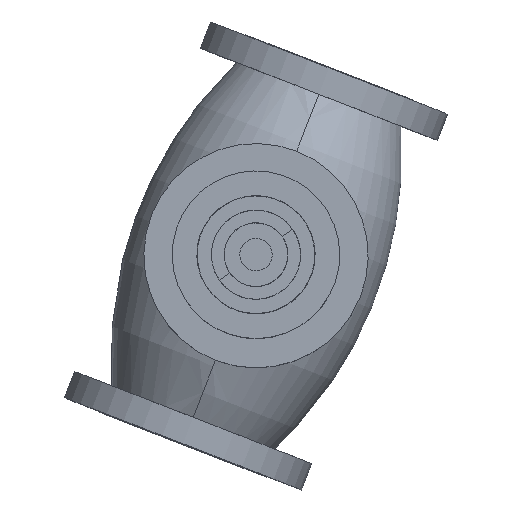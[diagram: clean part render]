
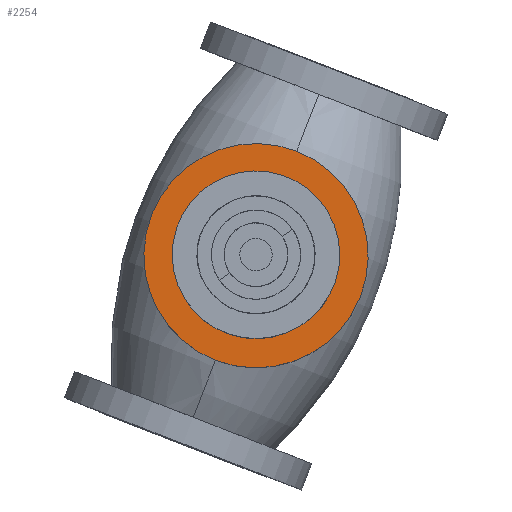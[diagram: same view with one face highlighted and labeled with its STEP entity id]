
A CAD part, top view. The second image highlights one B-rep face of the part: STEP entity #2254.
In plain terms, the highlighted planar face has unit normal (0, 0, 1).
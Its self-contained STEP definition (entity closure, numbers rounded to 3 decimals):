
#117 = EDGE_LOOP ( 'NONE', ( #6191, #2797 ) ) ;
#292 = AXIS2_PLACEMENT_3D ( 'NONE', #2514, #6228, #6932 ) ;
#377 = CARTESIAN_POINT ( 'NONE',  ( -21.119, 64.783, -401.401 ) ) ;
#728 = CARTESIAN_POINT ( 'NONE',  ( 1.502, 4.816, -401.401 ) ) ;
#735 = CARTESIAN_POINT ( 'NONE',  ( 16.715, -56.319, -401.401 ) ) ;
#817 = VERTEX_POINT ( 'NONE', #5376 ) ;
#835 = CARTESIAN_POINT ( 'NONE',  ( 1.502, 4.816, -401.401 ) ) ;
#1004 = EDGE_CURVE ( 'NONE', #8036, #817, #6884, .T. ) ;
#1070 = AXIS2_PLACEMENT_3D ( 'NONE', #6479, #5827, #1247 ) ;
#1093 = VERTEX_POINT ( 'NONE', #377 ) ;
#1116 = CIRCLE ( 'NONE', #4494, 7.5 ) ;
#1247 = DIRECTION ( 'NONE',  ( 0.362, 0.932, 0. ) ) ;
#1401 = DIRECTION ( 'NONE',  ( 0.362, 0.932, 0. ) ) ;
#1477 = VERTEX_POINT ( 'NONE', #7106 ) ;
#1676 = PLANE ( 'NONE',  #4814 ) ;
#1771 = CIRCLE ( 'NONE', #5785, 97. ) ;
#1862 = VERTEX_POINT ( 'NONE', #3874 ) ;
#1970 = EDGE_CURVE ( 'NONE', #1093, #1477, #9484, .T. ) ;
#2213 = CARTESIAN_POINT ( 'NONE',  ( -33.636, -85.595, -401.401 ) ) ;
#2254 = ADVANCED_FACE ( 'NONE', ( #8373, #6199, #9348, #4654 ), #1676, .T. ) ;
#2514 = CARTESIAN_POINT ( 'NONE',  ( -13.71, 65.952, -401.401 ) ) ;
#2521 = EDGE_LOOP ( 'NONE', ( #2976, #7799 ) ) ;
#2530 = DIRECTION ( 'NONE',  ( 0., 0., -1. ) ) ;
#2636 = EDGE_CURVE ( 'NONE', #1477, #1093, #3367, .T. ) ;
#2720 = AXIS2_PLACEMENT_3D ( 'NONE', #4724, #7817, #5524 ) ;
#2797 = ORIENTED_EDGE ( 'NONE', *, *, #1004, .T. ) ;
#2861 = DIRECTION ( 'NONE',  ( 1., 0., 0. ) ) ;
#2976 = ORIENTED_EDGE ( 'NONE', *, *, #6924, .F. ) ;
#3066 = DIRECTION ( 'NONE',  ( 0., 0., -1. ) ) ;
#3367 = CIRCLE ( 'NONE', #292, 7.5 ) ;
#3446 = VERTEX_POINT ( 'NONE', #2213 ) ;
#3572 = DIRECTION ( 'NONE',  ( 0., 0., -1. ) ) ;
#3794 = EDGE_CURVE ( 'NONE', #8671, #3446, #1771, .T. ) ;
#3851 = DIRECTION ( 'NONE',  ( 0., 0., 1. ) ) ;
#3874 = CARTESIAN_POINT ( 'NONE',  ( 51.741, -2.716, -401.401 ) ) ;
#3920 = DIRECTION ( 'NONE',  ( 0., 0., -1. ) ) ;
#4102 = CARTESIAN_POINT ( 'NONE',  ( 16.715, -56.319, -401.401 ) ) ;
#4288 = CARTESIAN_POINT ( 'NONE',  ( 9.306, -57.488, -401.401 ) ) ;
#4494 = AXIS2_PLACEMENT_3D ( 'NONE', #4102, #2530, #8469 ) ;
#4654 = FACE_OUTER_BOUND ( 'NONE', #2521, .T. ) ;
#4724 = CARTESIAN_POINT ( 'NONE',  ( -13.71, 65.952, -401.401 ) ) ;
#4814 = AXIS2_PLACEMENT_3D ( 'NONE', #7642, #3851, #7697 ) ;
#5064 = VERTEX_POINT ( 'NONE', #9973 ) ;
#5376 = CARTESIAN_POINT ( 'NONE',  ( 24.123, -55.151, -401.401 ) ) ;
#5524 = DIRECTION ( 'NONE',  ( 1., 0., 0. ) ) ;
#5785 = AXIS2_PLACEMENT_3D ( 'NONE', #728, #3066, #1401 ) ;
#5827 = DIRECTION ( 'NONE',  ( 0., 0., -1. ) ) ;
#6191 = ORIENTED_EDGE ( 'NONE', *, *, #9382, .T. ) ;
#6199 = FACE_BOUND ( 'NONE', #117, .T. ) ;
#6228 = DIRECTION ( 'NONE',  ( 0., 0., -1. ) ) ;
#6479 = CARTESIAN_POINT ( 'NONE',  ( 1.502, 4.816, -401.401 ) ) ;
#6563 = CIRCLE ( 'NONE', #9300, 50.8 ) ;
#6579 = EDGE_LOOP ( 'NONE', ( #9740, #7448 ) ) ;
#6884 = CIRCLE ( 'NONE', #9798, 7.5 ) ;
#6924 = EDGE_CURVE ( 'NONE', #3446, #8671, #8637, .T. ) ;
#6932 = DIRECTION ( 'NONE',  ( 1., 0., 0. ) ) ;
#6976 = EDGE_CURVE ( 'NONE', #1862, #5064, #7977, .T. ) ;
#7001 = EDGE_LOOP ( 'NONE', ( #9023, #7980 ) ) ;
#7106 = CARTESIAN_POINT ( 'NONE',  ( -6.302, 67.121, -401.401 ) ) ;
#7218 = DIRECTION ( 'NONE',  ( 1., 0., 0. ) ) ;
#7448 = ORIENTED_EDGE ( 'NONE', *, *, #1970, .T. ) ;
#7642 = CARTESIAN_POINT ( 'NONE',  ( 1.502, 4.816, -401.401 ) ) ;
#7643 = AXIS2_PLACEMENT_3D ( 'NONE', #9567, #3572, #2861 ) ;
#7697 = DIRECTION ( 'NONE',  ( 1., 0., 0. ) ) ;
#7764 = DIRECTION ( 'NONE',  ( 0., 0., -1. ) ) ;
#7799 = ORIENTED_EDGE ( 'NONE', *, *, #3794, .F. ) ;
#7817 = DIRECTION ( 'NONE',  ( 0., 0., -1. ) ) ;
#7977 = CIRCLE ( 'NONE', #7643, 50.8 ) ;
#7980 = ORIENTED_EDGE ( 'NONE', *, *, #6976, .T. ) ;
#8036 = VERTEX_POINT ( 'NONE', #4288 ) ;
#8332 = EDGE_CURVE ( 'NONE', #5064, #1862, #6563, .T. ) ;
#8373 = FACE_BOUND ( 'NONE', #6579, .T. ) ;
#8469 = DIRECTION ( 'NONE',  ( 1., 0., 0. ) ) ;
#8637 = CIRCLE ( 'NONE', #1070, 97. ) ;
#8671 = VERTEX_POINT ( 'NONE', #9094 ) ;
#9023 = ORIENTED_EDGE ( 'NONE', *, *, #8332, .T. ) ;
#9094 = CARTESIAN_POINT ( 'NONE',  ( 36.641, 95.228, -401.401 ) ) ;
#9300 = AXIS2_PLACEMENT_3D ( 'NONE', #835, #7764, #7218 ) ;
#9348 = FACE_BOUND ( 'NONE', #7001, .T. ) ;
#9374 = DIRECTION ( 'NONE',  ( 1., 0., 0. ) ) ;
#9382 = EDGE_CURVE ( 'NONE', #817, #8036, #1116, .T. ) ;
#9484 = CIRCLE ( 'NONE', #2720, 7.5 ) ;
#9567 = CARTESIAN_POINT ( 'NONE',  ( 1.502, 4.816, -401.401 ) ) ;
#9740 = ORIENTED_EDGE ( 'NONE', *, *, #2636, .T. ) ;
#9798 = AXIS2_PLACEMENT_3D ( 'NONE', #735, #3920, #9374 ) ;
#9973 = CARTESIAN_POINT ( 'NONE',  ( -48.736, 12.349, -401.401 ) ) ;
